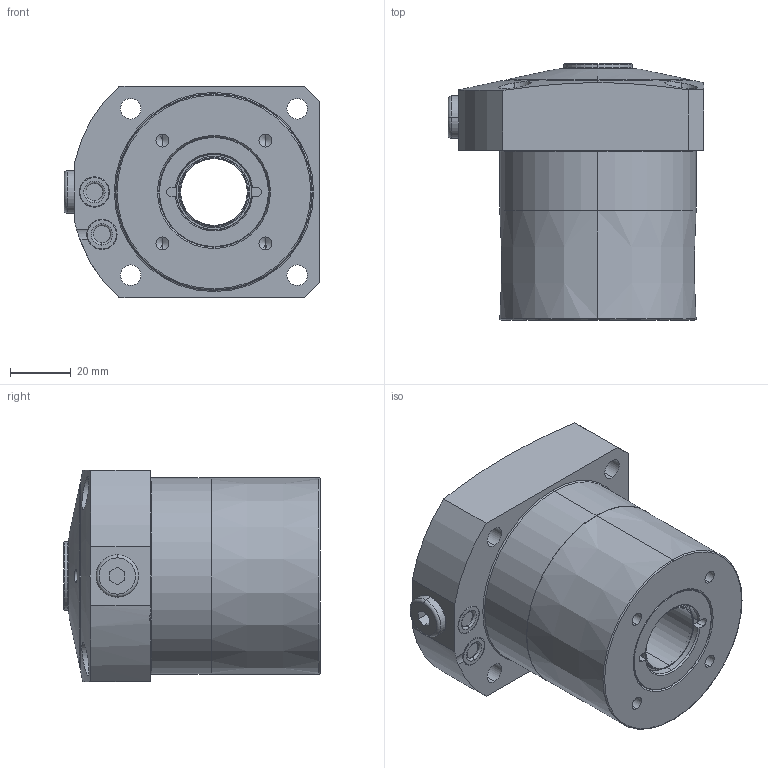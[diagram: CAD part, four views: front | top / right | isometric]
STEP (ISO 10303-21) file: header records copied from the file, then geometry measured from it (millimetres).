
FILE_DESCRIPTION(/* description */ (''),/* implementation_level */ '2;1');
FILE_NAME(/* name */ 'KFSS65-C.stp',/* time_stamp */ '2026-02-06T10:03:47+08:00',/* author */ (''),/* organization */ (''),/* preprocessor_version */ 'ST-DEVELOPER v16.7',/* originating_system */ 'SIEMENS PLM Software NX 12.0',/* authorisation */ '');
FILE_SCHEMA (('AUTOMOTIVE_DESIGN { 1 0 10303 214 3 1 1 1 }'));
Length unit declared in the file: millimetre
Products named in the file (4): KFSS65-C-01; KFSS65-C-02; KFSS65-C-03-P7; LC0653-C-D_step
Assembly tree (4 placements, depth 2):
  LC0653-C-D_step
    KFSS65-C-03-P7  x2
    KFSS65-C-02
    KFSS65-C-01
Bounding box: 84.5 x 84.6 x 70 mm (x, y, z)
Volume: 274621.9 mm3; surface area: 37951.2 mm2
Topology: 4 solids, 4 shells, 199 faces, 446 edges, 267 vertices
Faces by surface type: cylinder 68, plane 47, cone 44, torus 40
Entity records: 5556 total; most frequent: CARTESIAN_POINT 1110, DIRECTION 990, ORIENTED_EDGE 820, AXIS2_PLACEMENT_3D 417, EDGE_CURVE 410, VERTEX_POINT 253, CIRCLE 225, EDGE_LOOP 223
